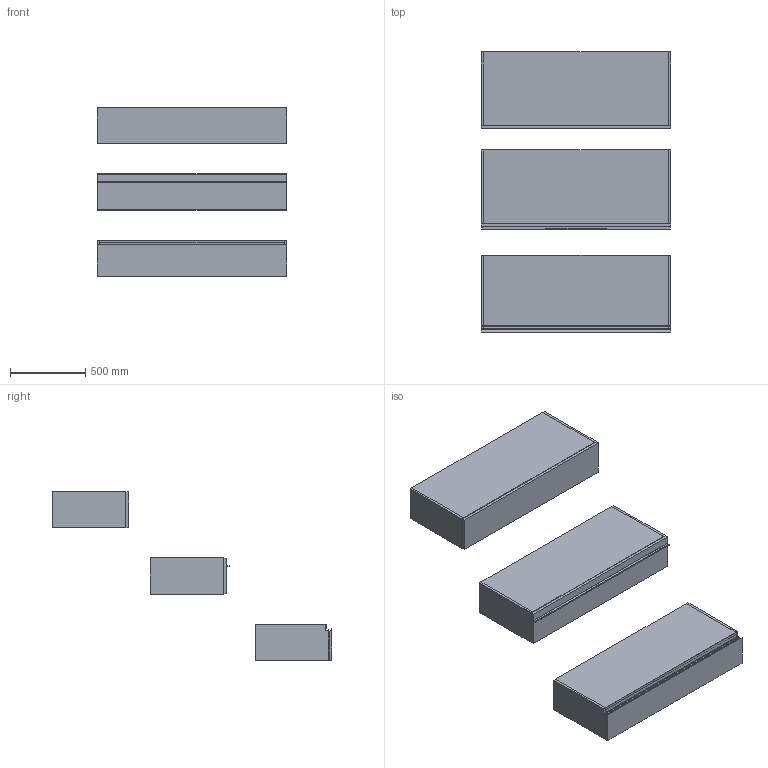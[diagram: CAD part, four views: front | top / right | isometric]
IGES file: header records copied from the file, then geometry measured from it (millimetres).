
Start section: Data from Parasolid IGES Translator 19.0.9, Copyright(c) 2006 Siemens PL M Software. All Rights Reserved.
Global section: file name: noorth-SI-H 24 D 51 W 126_8314.igs; native system: By Siemens PLM Incorporated; preprocessor: XPlus GENERIC/IGES 19.0.9; author: Noname; organization: Noname; date: 20200530.121217; units: metre
Bounding box: 1260.01 x 1857.1 x 1120 mm (x, y, z)
Volume: 86889810.1 mm3; surface area: 12653527.9 mm2
Topology: 20 solids, 20 shells, 178 faces, 382 edges, 234 vertices
Faces by surface type: plane 134, extrusion 16, bspline 16, cylinder 12
